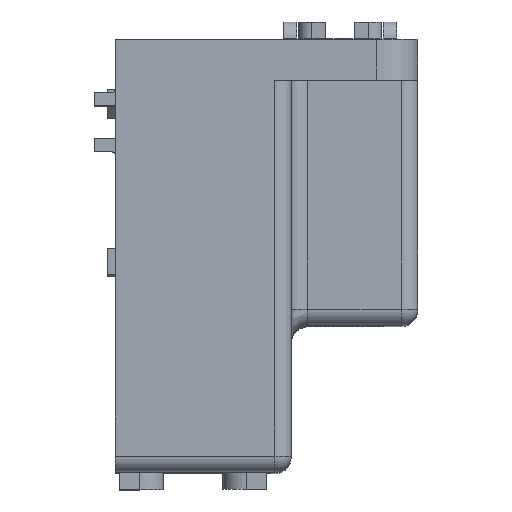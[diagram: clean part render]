
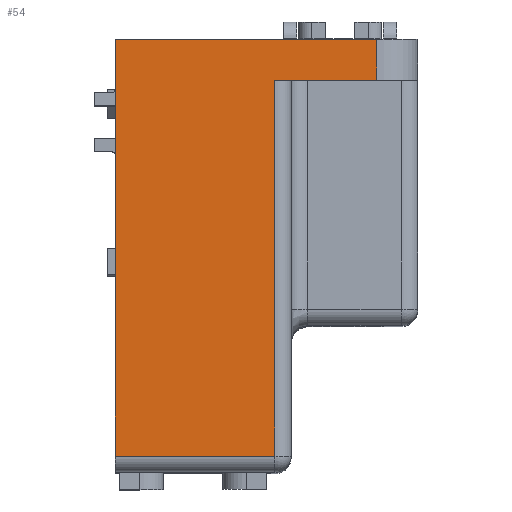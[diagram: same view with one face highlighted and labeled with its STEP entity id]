
A CAD part, top view. The second image highlights one B-rep face of the part: STEP entity #54.
In plain terms, the highlighted planar face has unit normal (0, 0, 1).
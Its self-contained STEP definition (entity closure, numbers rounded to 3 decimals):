
#54=ADVANCED_FACE('',(#454),#453,.F.);
#453=PLANE('',#3728);
#454=FACE_OUTER_BOUND('',#3729,.T.);
#3725=CARTESIAN_POINT('',(92.2,-61.1,62.2));
#3726=DIRECTION('',(0.,0.,-1.));
#3727=DIRECTION('',(-1.,0.,0.));
#3728=AXIS2_PLACEMENT_3D('',#3725,#3726,#3727);
#3729=EDGE_LOOP('',(#5450,#5451,#5452,#5453,#5454,#5455));
#5450=ORIENTED_EDGE('',*,*,#7165,.F.);
#5451=ORIENTED_EDGE('',*,*,#7193,.T.);
#5452=ORIENTED_EDGE('',*,*,#7187,.T.);
#5453=ORIENTED_EDGE('',*,*,#7194,.F.);
#5454=ORIENTED_EDGE('',*,*,#7195,.T.);
#5455=ORIENTED_EDGE('',*,*,#7196,.T.);
#7165=EDGE_CURVE('',#8210,#8217,#8218,.T.);
#7187=EDGE_CURVE('',#8369,#8362,#8370,.T.);
#7193=EDGE_CURVE('',#8210,#8369,#8410,.T.);
#7194=EDGE_CURVE('',#8416,#8362,#8417,.T.);
#7195=EDGE_CURVE('',#8416,#8423,#8424,.T.);
#7196=EDGE_CURVE('',#8423,#8217,#8430,.T.);
#8210=VERTEX_POINT('',#13977);
#8217=VERTEX_POINT('',#13982);
#8218=LINE('',#13983,#13984);
#8362=VERTEX_POINT('',#14070);
#8369=VERTEX_POINT('',#14075);
#8370=LINE('',#14076,#14077);
#8410=LINE('',#14101,#14102);
#8416=VERTEX_POINT('',#14104);
#8417=LINE('',#14105,#14106);
#8423=VERTEX_POINT('',#14108);
#8424=LINE('',#14109,#14110);
#8430=LINE('',#14112,#14113);
#13977=CARTESIAN_POINT('',(76.5,-56.,62.2));
#13982=CARTESIAN_POINT('',(57.,-56.,62.2));
#13983=CARTESIAN_POINT('',(76.5,-56.,62.2));
#13984=VECTOR('',#13985,19.5);
#13985=DIRECTION('',(-1.,0.,0.));
#14070=CARTESIAN_POINT('',(89.,-10.,62.2));
#14075=CARTESIAN_POINT('',(76.5,-10.,62.2));
#14076=CARTESIAN_POINT('',(76.5,-10.,62.2));
#14077=VECTOR('',#14078,12.5);
#14078=DIRECTION('',(1.,0.,0.));
#14101=CARTESIAN_POINT('',(76.5,-56.,62.2));
#14102=VECTOR('',#14103,46.);
#14103=DIRECTION('',(0.,1.,0.));
#14104=CARTESIAN_POINT('',(89.,-5.,62.2));
#14105=CARTESIAN_POINT('',(89.,-5.,62.2));
#14106=VECTOR('',#14107,5.);
#14107=DIRECTION('',(0.,-1.,0.));
#14108=CARTESIAN_POINT('',(57.,-5.,62.2));
#14109=CARTESIAN_POINT('',(89.,-5.,62.2));
#14110=VECTOR('',#14111,32.);
#14111=DIRECTION('',(-1.,0.,0.));
#14112=CARTESIAN_POINT('',(57.,-5.,62.2));
#14113=VECTOR('',#14114,51.);
#14114=DIRECTION('',(0.,-1.,0.));
